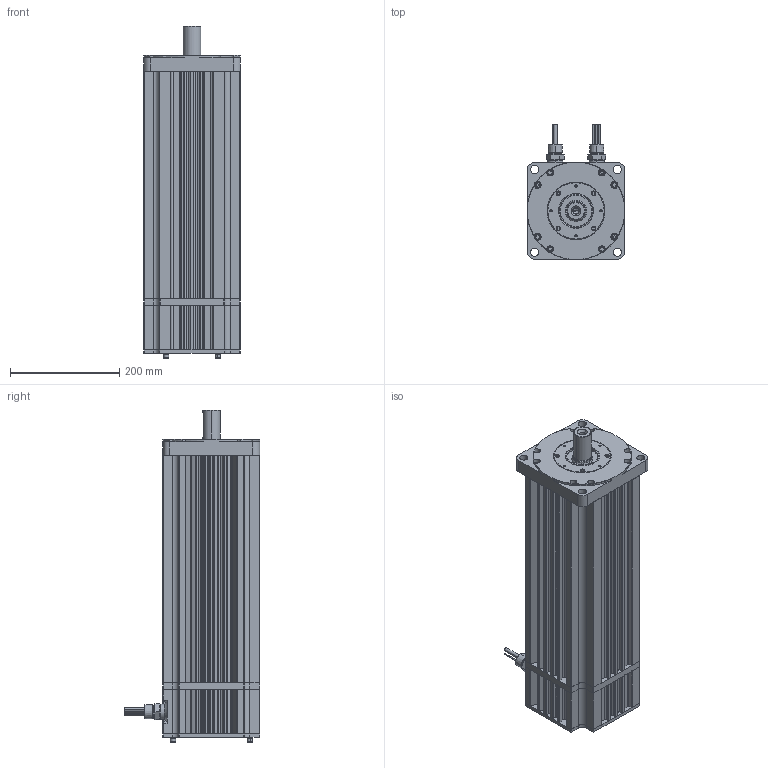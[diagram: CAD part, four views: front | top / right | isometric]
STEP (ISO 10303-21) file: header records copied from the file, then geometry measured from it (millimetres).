
FILE_DESCRIPTION (( 'STEP AP203' ), '1' );
FILE_NAME ('M476-CNSB-7T08.STEP', '2015-10-06T20:46:10', ( '' ), ( '' ), 'SwSTEP 2.0', 'SolidWorks 2015', '' );
FILE_SCHEMA (( 'CONFIG_CONTROL_DESIGN' ));
Products named in the file (1): M476-CNSB-7T08
Bounding box: 177.8 x 248.92 x 609.09 mm (x, y, z)
Volume: 10679836.5 mm3; surface area: 1794808.5 mm2
Topology: 68 solids, 68 shells, 3440 faces, 8954 edges, 5682 vertices
Faces by surface type: cylinder 1700, plane 1230, cone 316, torus 167, bspline 25, sphere 2
Entity records: 109285 total; most frequent: CARTESIAN_POINT 21795, DIRECTION 19629, ORIENTED_EDGE 17752, EDGE_CURVE 8876, AXIS2_PLACEMENT_3D 7596, VERTEX_POINT 5682, VECTOR 4437, LINE 4437
